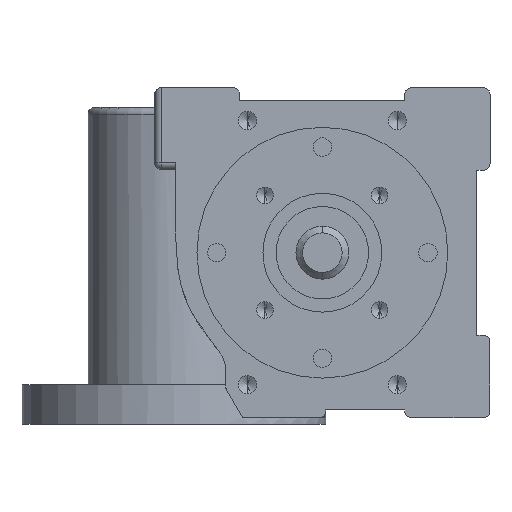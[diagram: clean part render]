
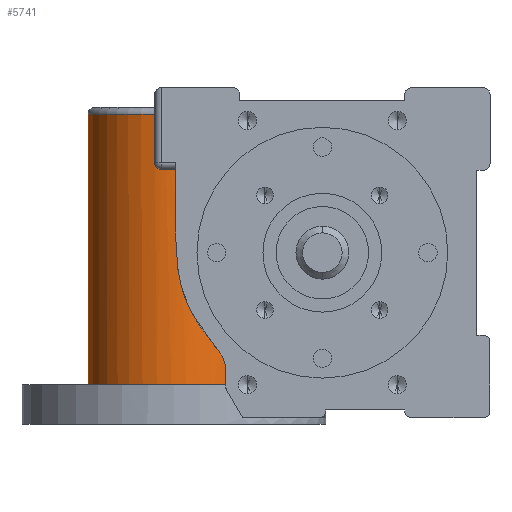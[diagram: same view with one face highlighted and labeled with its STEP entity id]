
A CAD part, left-side view. The second image highlights one B-rep face of the part: STEP entity #5741.
In plain terms, the highlighted cylindrical face has radius 13 mm (diameter 26 mm), a partial arc.
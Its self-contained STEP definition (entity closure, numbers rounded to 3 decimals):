
#40 = CARTESIAN_POINT ( 'NONE',  ( 0., 35.5, 21. ) ) ;
#82 = CARTESIAN_POINT ( 'NONE',  ( -12.997, 22.2, 12.6 ) ) ;
#1143 = DIRECTION ( 'NONE',  ( 0., 0., -1. ) ) ;
#1144 = VECTOR ( 'NONE', #1143, 1000. ) ;
#1145 = CARTESIAN_POINT ( 'NONE',  ( -10.324, 14.6, 22. ) ) ;
#1150 = CYLINDRICAL_SURFACE ( 'NONE', #1308, 13. ) ;
#1154 = DIRECTION ( 'NONE',  ( 0., 0., -1. ) ) ;
#1161 = CARTESIAN_POINT ( 'NONE',  ( -12.997, 22.2, 22. ) ) ;
#1162 = LINE ( 'NONE', #1161, #1239 ) ;
#1168 = CARTESIAN_POINT ( 'NONE',  ( -11.119, 15.764, -14.793 ) ) ;
#1229 = DIRECTION ( 'NONE',  ( 0., 1., 0. ) ) ;
#1230 = LINE ( 'NONE', #1145, #1144 ) ;
#1237 = CARTESIAN_POINT ( 'NONE',  ( -10.324, 14.6, -20. ) ) ;
#1238 = DIRECTION ( 'NONE',  ( 0., 0., -1. ) ) ;
#1239 = VECTOR ( 'NONE', #1238, 1000. ) ;
#1241 = DIRECTION ( 'NONE',  ( 0., 0., -1. ) ) ;
#1242 = VECTOR ( 'NONE', #1241, 1000. ) ;
#1243 = CARTESIAN_POINT ( 'NONE',  ( 0., 35.5, 22. ) ) ;
#1244 = LINE ( 'NONE', #1243, #1242 ) ;
#1246 = CARTESIAN_POINT ( 'NONE',  ( 0., 35.5, -20. ) ) ;
#1247 = CARTESIAN_POINT ( 'NONE',  ( -10.324, 14.6, -18. ) ) ;
#1254 = FACE_OUTER_BOUND ( 'NONE', #5815, .T. ) ;
#1266 = CARTESIAN_POINT ( 'NONE',  ( 0., 22.5, 22. ) ) ;
#1308 = AXIS2_PLACEMENT_3D ( 'NONE', #1266, #1154, #1229 ) ;
#1342 = CARTESIAN_POINT ( 'NONE',  ( -12.672, 25.4, 13.334 ) ) ;
#1343 = CARTESIAN_POINT ( 'NONE',  ( -12.699, 25.289, 13.074 ) ) ;
#1344 = CARTESIAN_POINT ( 'NONE',  ( -12.755, 25.012, 12.799 ) ) ;
#1345 = CARTESIAN_POINT ( 'NONE',  ( -12.777, 24.902, 12.725 ) ) ;
#1346 = CARTESIAN_POINT ( 'NONE',  ( -12.82, 24.661, 12.626 ) ) ;
#1347 = CARTESIAN_POINT ( 'NONE',  ( -12.841, 24.532, 12.6 ) ) ;
#1348 = CARTESIAN_POINT ( 'NONE',  ( -12.86, 24.4, 12.6 ) ) ;
#1351 = CARTESIAN_POINT ( 'NONE',  ( -12.672, 25.4, 13.6 ) ) ;
#1352 = B_SPLINE_CURVE_WITH_KNOTS ( 'NONE', 3,
 ( #1348, #1347, #1346, #1345, #1344, #1343, #1342, #1537 ),
 .UNSPECIFIED., .F., .F.,
 ( 4, 2, 2, 4 ),
 ( 0., 0., 0.001, 0.002 ),
 .UNSPECIFIED. ) ;
#1357 = AXIS2_PLACEMENT_3D ( 'NONE', #1447, #1440, #1439 ) ;
#1418 = CARTESIAN_POINT ( 'NONE',  ( -10.324, 14.6, -18. ) ) ;
#1419 = CARTESIAN_POINT ( 'NONE',  ( -10.324, 14.6, -17.697 ) ) ;
#1420 = CARTESIAN_POINT ( 'NONE',  ( -10.346, 14.628, -17.396 ) ) ;
#1421 = CARTESIAN_POINT ( 'NONE',  ( -10.425, 14.733, -16.816 ) ) ;
#1422 = CARTESIAN_POINT ( 'NONE',  ( -10.483, 14.811, -16.535 ) ) ;
#1423 = CARTESIAN_POINT ( 'NONE',  ( -10.629, 15.013, -15.988 ) ) ;
#1424 = CARTESIAN_POINT ( 'NONE',  ( -10.716, 15.138, -15.727 ) ) ;
#1425 = CARTESIAN_POINT ( 'NONE',  ( -10.906, 15.423, -15.238 ) ) ;
#1426 = CARTESIAN_POINT ( 'NONE',  ( -11.01, 15.584, -15.008 ) ) ;
#1427 = CARTESIAN_POINT ( 'NONE',  ( -11.119, 15.764, -14.793 ) ) ;
#1428 = DIRECTION ( 'NONE',  ( 0., 0., 1. ) ) ;
#1429 = VECTOR ( 'NONE', #1428, 1000. ) ;
#1437 = CARTESIAN_POINT ( 'NONE',  ( -12.672, 25.4, 22. ) ) ;
#1438 = LINE ( 'NONE', #1437, #1429 ) ;
#1439 = DIRECTION ( 'NONE',  ( 1., 0., 0. ) ) ;
#1440 = DIRECTION ( 'NONE',  ( 0., 0., 1. ) ) ;
#1447 = CARTESIAN_POINT ( 'NONE',  ( 0., 22.5, 12.6 ) ) ;
#1449 = CARTESIAN_POINT ( 'NONE',  ( -12.86, 24.4, 12.6 ) ) ;
#1450 = CIRCLE ( 'NONE', #1357, 13. ) ;
#1496 = CARTESIAN_POINT ( 'NONE',  ( -11.119, 15.764, -14.793 ) ) ;
#1497 = CARTESIAN_POINT ( 'NONE',  ( -11.473, 16.349, -14.093 ) ) ;
#1498 = CARTESIAN_POINT ( 'NONE',  ( -11.762, 16.93, -13.367 ) ) ;
#1499 = CARTESIAN_POINT ( 'NONE',  ( -12.116, 17.778, -12.227 ) ) ;
#1500 = CARTESIAN_POINT ( 'NONE',  ( -12.22, 18.057, -11.838 ) ) ;
#1501 = CARTESIAN_POINT ( 'NONE',  ( -12.403, 18.596, -11.05 ) ) ;
#1502 = CARTESIAN_POINT ( 'NONE',  ( -12.482, 18.857, -10.649 ) ) ;
#1503 = CARTESIAN_POINT ( 'NONE',  ( -12.685, 19.607, -9.426 ) ) ;
#1504 = CARTESIAN_POINT ( 'NONE',  ( -12.776, 20.064, -8.581 ) ) ;
#1505 = CARTESIAN_POINT ( 'NONE',  ( -12.869, 20.647, -7.253 ) ) ;
#1506 = CARTESIAN_POINT ( 'NONE',  ( -12.893, 20.825, -6.801 ) ) ;
#1507 = CARTESIAN_POINT ( 'NONE',  ( -12.93, 21.145, -5.875 ) ) ;
#1508 = CARTESIAN_POINT ( 'NONE',  ( -12.944, 21.285, -5.407 ) ) ;
#1509 = CARTESIAN_POINT ( 'NONE',  ( -12.974, 21.649, -3.996 ) ) ;
#1510 = CARTESIAN_POINT ( 'NONE',  ( -12.983, 21.817, -3.042 ) ) ;
#1511 = CARTESIAN_POINT ( 'NONE',  ( -12.993, 22.049, -1.117 ) ) ;
#1512 = CARTESIAN_POINT ( 'NONE',  ( -12.994, 22.113, -0.144 ) ) ;
#1513 = CARTESIAN_POINT ( 'NONE',  ( -12.996, 22.19, 1.804 ) ) ;
#1514 = CARTESIAN_POINT ( 'NONE',  ( -12.997, 22.201, 2.779 ) ) ;
#1515 = CARTESIAN_POINT ( 'NONE',  ( -12.997, 22.208, 4.728 ) ) ;
#1516 = CARTESIAN_POINT ( 'NONE',  ( -12.997, 22.203, 5.703 ) ) ;
#1517 = CARTESIAN_POINT ( 'NONE',  ( -12.997, 22.2, 6.677 ) ) ;
#1521 = B_SPLINE_CURVE_WITH_KNOTS ( 'NONE', 3,
 ( #1427, #1426, #1425, #1424, #1423, #1422, #1421, #1420, #1419, #1418 ),
 .UNSPECIFIED., .F., .F.,
 ( 4, 2, 2, 2, 4 ),
 ( 0., 0.001, 0.002, 0.003, 0.004 ),
 .UNSPECIFIED. ) ;
#1522 = B_SPLINE_CURVE_WITH_KNOTS ( 'NONE', 3,
 ( #1517, #1516, #1515, #1514, #1513, #1512, #1511, #1510, #1509, #1508, #1507, #1506, #1505, #1504, #1503, #1502, #1501, #1500, #1499, #1498, #1497, #1496 ),
 .UNSPECIFIED., .F., .F.,
 ( 4, 2, 2, 2, 2, 2, 2, 2, 2, 2, 4 ),
 ( 0., 0.003, 0.006, 0.009, 0.012, 0.013, 0.015, 0.018, 0.019, 0.02, 0.023 ),
 .UNSPECIFIED. ) ;
#1537 = CARTESIAN_POINT ( 'NONE',  ( -12.672, 25.4, 13.6 ) ) ;
#1545 = DIRECTION ( 'NONE',  ( 0., 1., 0. ) ) ;
#1546 = DIRECTION ( 'NONE',  ( 0., 0., 1. ) ) ;
#1547 = CARTESIAN_POINT ( 'NONE',  ( 0., 22.5, -20. ) ) ;
#1548 = AXIS2_PLACEMENT_3D ( 'NONE', #1547, #1546, #1545 ) ;
#1560 = CIRCLE ( 'NONE', #1548, 13. ) ;
#1576 = CARTESIAN_POINT ( 'NONE',  ( -12.997, 22.2, 6.677 ) ) ;
#5107 = ORIENTED_EDGE ( 'NONE', *, *, #5819, .F. ) ;
#5117 = EDGE_CURVE ( 'NONE', #5122, #5256, #11624, .T. ) ;
#5122 = VERTEX_POINT ( 'NONE', #11504 ) ;
#5153 = ORIENTED_EDGE ( 'NONE', *, *, #5828, .T. ) ;
#5256 = VERTEX_POINT ( 'NONE', #40 ) ;
#5263 = VERTEX_POINT ( 'NONE', #82 ) ;
#5741 = ADVANCED_FACE ( 'NONE', ( #1254 ), #1150, .T. ) ;
#5742 = ORIENTED_EDGE ( 'NONE', *, *, #5117, .T. ) ;
#5763 = EDGE_CURVE ( 'NONE', #5256, #5773, #1244, .T. ) ;
#5764 = EDGE_CURVE ( 'NONE', #5263, #5804, #1162, .T. ) ;
#5765 = ORIENTED_EDGE ( 'NONE', *, *, #5805, .T. ) ;
#5766 = VERTEX_POINT ( 'NONE', #1237 ) ;
#5767 = ORIENTED_EDGE ( 'NONE', *, *, #5838, .F. ) ;
#5768 = ORIENTED_EDGE ( 'NONE', *, *, #5837, .F. ) ;
#5769 = ORIENTED_EDGE ( 'NONE', *, *, #5764, .F. ) ;
#5770 = VERTEX_POINT ( 'NONE', #1168 ) ;
#5772 = VERTEX_POINT ( 'NONE', #1247 ) ;
#5773 = VERTEX_POINT ( 'NONE', #1246 ) ;
#5774 = EDGE_CURVE ( 'NONE', #5772, #5766, #1230, .T. ) ;
#5790 = ORIENTED_EDGE ( 'NONE', *, *, #5824, .T. ) ;
#5803 = ORIENTED_EDGE ( 'NONE', *, *, #5774, .F. ) ;
#5804 = VERTEX_POINT ( 'NONE', #1576 ) ;
#5805 = EDGE_CURVE ( 'NONE', #5773, #5766, #1560, .T. ) ;
#5815 = EDGE_LOOP ( 'NONE', ( #5742, #11580, #5765, #5803, #5767, #5768, #5769, #5107, #5153, #5790 ) ) ;
#5818 = VERTEX_POINT ( 'NONE', #1449 ) ;
#5819 = EDGE_CURVE ( 'NONE', #5818, #5263, #1450, .T. ) ;
#5824 = EDGE_CURVE ( 'NONE', #5832, #5122, #1438, .T. ) ;
#5828 = EDGE_CURVE ( 'NONE', #5818, #5832, #1352, .T. ) ;
#5832 = VERTEX_POINT ( 'NONE', #1351 ) ;
#5837 = EDGE_CURVE ( 'NONE', #5804, #5770, #1522, .T. ) ;
#5838 = EDGE_CURVE ( 'NONE', #5770, #5772, #1521, .T. ) ;
#11501 = DIRECTION ( 'NONE',  ( 0., 1., 0. ) ) ;
#11502 = DIRECTION ( 'NONE',  ( 0., 0., -1. ) ) ;
#11503 = AXIS2_PLACEMENT_3D ( 'NONE', #11510, #11502, #11501 ) ;
#11504 = CARTESIAN_POINT ( 'NONE',  ( -12.672, 25.4, 21. ) ) ;
#11510 = CARTESIAN_POINT ( 'NONE',  ( 0., 22.5, 21. ) ) ;
#11580 = ORIENTED_EDGE ( 'NONE', *, *, #5763, .T. ) ;
#11624 = CIRCLE ( 'NONE', #11503, 13. ) ;
